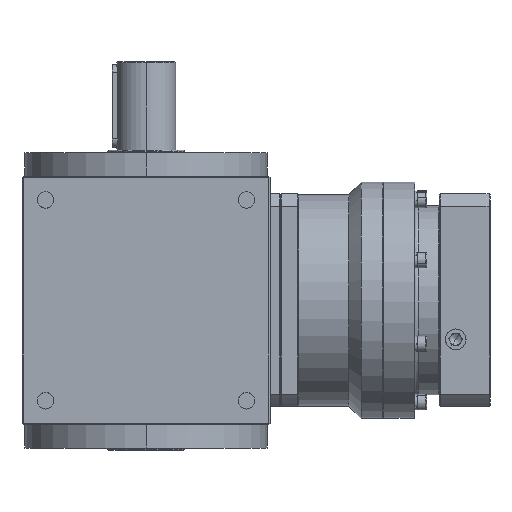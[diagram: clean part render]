
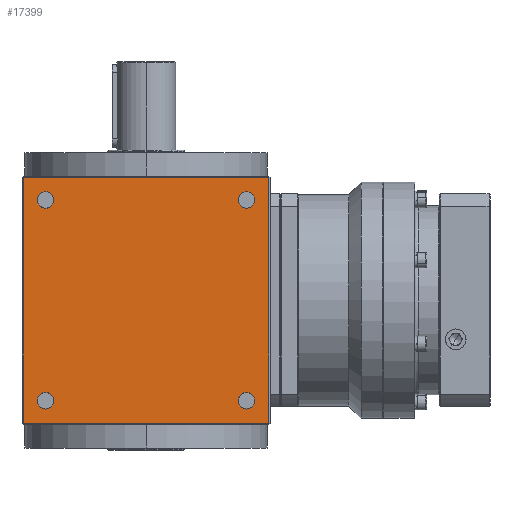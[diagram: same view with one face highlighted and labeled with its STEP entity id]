
A CAD part, left-side view. The second image highlights one B-rep face of the part: STEP entity #17399.
In plain terms, the highlighted planar face has unit normal (-1, 0, 0).
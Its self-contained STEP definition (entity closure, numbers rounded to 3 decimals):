
#38 = EDGE_LOOP ( 'NONE', ( #16933, #26029 ) ) ;
#44 = DIRECTION ( 'NONE',  ( 1., 0., 0. ) ) ;
#967 = VERTEX_POINT ( 'NONE', #19943 ) ;
#1258 = VERTEX_POINT ( 'NONE', #19000 ) ;
#2055 = DIRECTION ( 'NONE',  ( 0., 0., 1. ) ) ;
#2080 = EDGE_CURVE ( 'NONE', #1258, #31737, #4552, .T. ) ;
#2228 = CARTESIAN_POINT ( 'NONE',  ( -105., -104., -105. ) ) ;
#2949 = DIRECTION ( 'NONE',  ( 1., 0., 0. ) ) ;
#3897 = DIRECTION ( 'NONE',  ( 0., -1., 0. ) ) ;
#3902 = VERTEX_POINT ( 'NONE', #7855 ) ;
#3955 = CIRCLE ( 'NONE', #18709, 7. ) ;
#4552 = CIRCLE ( 'NONE', #10179, 7. ) ;
#4567 = CARTESIAN_POINT ( 'NONE',  ( -105., 104., -104. ) ) ;
#4799 = EDGE_CURVE ( 'NONE', #967, #16232, #12040, .T. ) ;
#5286 = LINE ( 'NONE', #30514, #32972 ) ;
#5314 = CARTESIAN_POINT ( 'NONE',  ( -105., 104., 104. ) ) ;
#5732 = CARTESIAN_POINT ( 'NONE',  ( -105., -85., -85. ) ) ;
#5830 = DIRECTION ( 'NONE',  ( 1., 0., 0. ) ) ;
#6119 = ORIENTED_EDGE ( 'NONE', *, *, #4799, .T. ) ;
#6205 = ORIENTED_EDGE ( 'NONE', *, *, #29016, .T. ) ;
#6247 = EDGE_CURVE ( 'NONE', #3902, #32279, #15554, .T. ) ;
#7336 = DIRECTION ( 'NONE',  ( 0., 0., 1. ) ) ;
#7515 = CARTESIAN_POINT ( 'NONE',  ( -105., -85., 85. ) ) ;
#7810 = FACE_OUTER_BOUND ( 'NONE', #28820, .T. ) ;
#7855 = CARTESIAN_POINT ( 'NONE',  ( -105., -104., -104. ) ) ;
#7989 = VERTEX_POINT ( 'NONE', #31179 ) ;
#8048 = ORIENTED_EDGE ( 'NONE', *, *, #12489, .T. ) ;
#9038 = FACE_BOUND ( 'NONE', #35044, .T. ) ;
#9113 = CIRCLE ( 'NONE', #32430, 7. ) ;
#9577 = DIRECTION ( 'NONE',  ( 0., 0., 1. ) ) ;
#10100 = VERTEX_POINT ( 'NONE', #28810 ) ;
#10135 = ORIENTED_EDGE ( 'NONE', *, *, #33907, .T. ) ;
#10179 = AXIS2_PLACEMENT_3D ( 'NONE', #5732, #12525, #34284 ) ;
#10989 = VERTEX_POINT ( 'NONE', #31218 ) ;
#11699 = CARTESIAN_POINT ( 'NONE',  ( -105., 105., -105. ) ) ;
#11941 = VERTEX_POINT ( 'NONE', #4567 ) ;
#12003 = DIRECTION ( 'NONE',  ( 0., 0., 1. ) ) ;
#12040 = CIRCLE ( 'NONE', #29704, 7. ) ;
#12120 = CIRCLE ( 'NONE', #24647, 7. ) ;
#12135 = VERTEX_POINT ( 'NONE', #17140 ) ;
#12489 = EDGE_CURVE ( 'NONE', #7989, #10989, #14386, .T. ) ;
#12525 = DIRECTION ( 'NONE',  ( 1., 0., 0. ) ) ;
#13402 = AXIS2_PLACEMENT_3D ( 'NONE', #14693, #5830, #30755 ) ;
#13435 = DIRECTION ( 'NONE',  ( 0., 1., 0. ) ) ;
#13711 = ORIENTED_EDGE ( 'NONE', *, *, #23878, .T. ) ;
#14203 = FACE_BOUND ( 'NONE', #29911, .T. ) ;
#14370 = DIRECTION ( 'NONE',  ( -1., 0., 0. ) ) ;
#14386 = CIRCLE ( 'NONE', #26344, 7. ) ;
#14437 = VECTOR ( 'NONE', #27354, 1000. ) ;
#14693 = CARTESIAN_POINT ( 'NONE',  ( -105., -85., 85. ) ) ;
#14730 = PLANE ( 'NONE',  #31456 ) ;
#14822 = EDGE_CURVE ( 'NONE', #10100, #12135, #17073, .T. ) ;
#15031 = CARTESIAN_POINT ( 'NONE',  ( -105., 85., -85. ) ) ;
#15496 = VERTEX_POINT ( 'NONE', #5314 ) ;
#15554 = LINE ( 'NONE', #2228, #34364 ) ;
#15890 = ORIENTED_EDGE ( 'NONE', *, *, #31978, .F. ) ;
#16232 = VERTEX_POINT ( 'NONE', #23916 ) ;
#16475 = LINE ( 'NONE', #19502, #14437 ) ;
#16868 = FACE_BOUND ( 'NONE', #38, .T. ) ;
#16933 = ORIENTED_EDGE ( 'NONE', *, *, #14822, .T. ) ;
#17073 = CIRCLE ( 'NONE', #28459, 7. ) ;
#17140 = CARTESIAN_POINT ( 'NONE',  ( -105., 85., 78. ) ) ;
#17242 = CARTESIAN_POINT ( 'NONE',  ( -105., 85., 85. ) ) ;
#17399 = ADVANCED_FACE ( 'NONE', ( #7810, #30604, #14203, #9038, #16868 ), #14730, .T. ) ;
#17405 = ORIENTED_EDGE ( 'NONE', *, *, #2080, .T. ) ;
#18709 = AXIS2_PLACEMENT_3D ( 'NONE', #27880, #31078, #30900 ) ;
#19000 = CARTESIAN_POINT ( 'NONE',  ( -105., -85., -78. ) ) ;
#19077 = EDGE_CURVE ( 'NONE', #16232, #967, #30013, .T. ) ;
#19502 = CARTESIAN_POINT ( 'NONE',  ( -105., 105., -104. ) ) ;
#19943 = CARTESIAN_POINT ( 'NONE',  ( -105., -85., 92. ) ) ;
#20498 = ORIENTED_EDGE ( 'NONE', *, *, #19077, .T. ) ;
#20672 = ORIENTED_EDGE ( 'NONE', *, *, #35038, .T. ) ;
#20900 = CARTESIAN_POINT ( 'NONE',  ( -105., -104., 104. ) ) ;
#21220 = DIRECTION ( 'NONE',  ( 1., 0., 0. ) ) ;
#21976 = DIRECTION ( 'NONE',  ( 0., 0., 1. ) ) ;
#22783 = DIRECTION ( 'NONE',  ( 1., 0., 0. ) ) ;
#23878 = EDGE_CURVE ( 'NONE', #32279, #15496, #5286, .T. ) ;
#23916 = CARTESIAN_POINT ( 'NONE',  ( -105., -85., 78. ) ) ;
#24245 = CARTESIAN_POINT ( 'NONE',  ( -105., 85., -85. ) ) ;
#24597 = ORIENTED_EDGE ( 'NONE', *, *, #6247, .T. ) ;
#24647 = AXIS2_PLACEMENT_3D ( 'NONE', #17242, #22783, #9577 ) ;
#25448 = LINE ( 'NONE', #30460, #32713 ) ;
#25796 = DIRECTION ( 'NONE',  ( 0., 0., -1. ) ) ;
#26029 = ORIENTED_EDGE ( 'NONE', *, *, #27383, .T. ) ;
#26344 = AXIS2_PLACEMENT_3D ( 'NONE', #24245, #44, #32619 ) ;
#27333 = CARTESIAN_POINT ( 'NONE',  ( -105., 85., 85. ) ) ;
#27354 = DIRECTION ( 'NONE',  ( 0., 1., 0. ) ) ;
#27383 = EDGE_CURVE ( 'NONE', #12135, #10100, #12120, .T. ) ;
#27880 = CARTESIAN_POINT ( 'NONE',  ( -105., -85., -85. ) ) ;
#28459 = AXIS2_PLACEMENT_3D ( 'NONE', #27333, #2949, #21976 ) ;
#28705 = EDGE_LOOP ( 'NONE', ( #6119, #20498 ) ) ;
#28810 = CARTESIAN_POINT ( 'NONE',  ( -105., 85., 92. ) ) ;
#28820 = EDGE_LOOP ( 'NONE', ( #24597, #13711, #6205, #15890 ) ) ;
#29016 = EDGE_CURVE ( 'NONE', #15496, #11941, #25448, .T. ) ;
#29704 = AXIS2_PLACEMENT_3D ( 'NONE', #7515, #21220, #7336 ) ;
#29911 = EDGE_LOOP ( 'NONE', ( #20672, #8048 ) ) ;
#30013 = CIRCLE ( 'NONE', #13402, 7. ) ;
#30460 = CARTESIAN_POINT ( 'NONE',  ( -105., 104., -105. ) ) ;
#30514 = CARTESIAN_POINT ( 'NONE',  ( -105., 0., 104. ) ) ;
#30604 = FACE_BOUND ( 'NONE', #28705, .T. ) ;
#30755 = DIRECTION ( 'NONE',  ( 0., 0., 1. ) ) ;
#30900 = DIRECTION ( 'NONE',  ( 0., 0., 1. ) ) ;
#31078 = DIRECTION ( 'NONE',  ( 1., 0., 0. ) ) ;
#31179 = CARTESIAN_POINT ( 'NONE',  ( -105., 85., -92. ) ) ;
#31218 = CARTESIAN_POINT ( 'NONE',  ( -105., 85., -78. ) ) ;
#31456 = AXIS2_PLACEMENT_3D ( 'NONE', #11699, #14370, #3897 ) ;
#31737 = VERTEX_POINT ( 'NONE', #33795 ) ;
#31978 = EDGE_CURVE ( 'NONE', #3902, #11941, #16475, .T. ) ;
#32279 = VERTEX_POINT ( 'NONE', #20900 ) ;
#32430 = AXIS2_PLACEMENT_3D ( 'NONE', #15031, #33749, #12003 ) ;
#32619 = DIRECTION ( 'NONE',  ( 0., 0., 1. ) ) ;
#32713 = VECTOR ( 'NONE', #25796, 1000. ) ;
#32972 = VECTOR ( 'NONE', #13435, 1000. ) ;
#33749 = DIRECTION ( 'NONE',  ( 1., 0., 0. ) ) ;
#33795 = CARTESIAN_POINT ( 'NONE',  ( -105., -85., -92. ) ) ;
#33907 = EDGE_CURVE ( 'NONE', #31737, #1258, #3955, .T. ) ;
#34284 = DIRECTION ( 'NONE',  ( 0., 0., 1. ) ) ;
#34364 = VECTOR ( 'NONE', #2055, 1000. ) ;
#35038 = EDGE_CURVE ( 'NONE', #10989, #7989, #9113, .T. ) ;
#35044 = EDGE_LOOP ( 'NONE', ( #17405, #10135 ) ) ;
